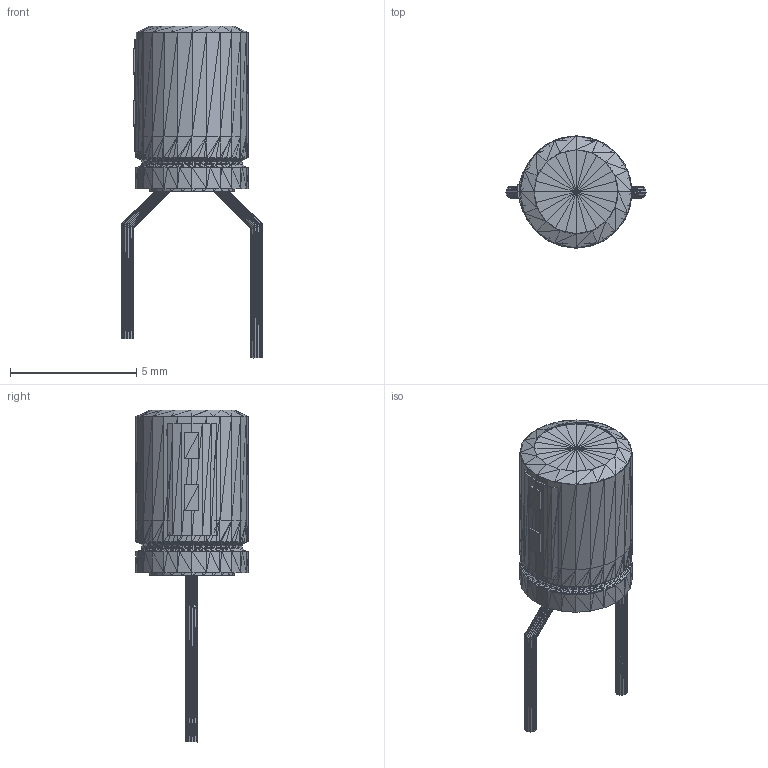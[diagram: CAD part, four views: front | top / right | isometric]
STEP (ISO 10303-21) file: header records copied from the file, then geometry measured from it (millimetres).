
FILE_DESCRIPTION(('HOOPS Exchange Step'),'2;1');
FILE_NAME('***.stp');
FILE_SCHEMA( ('AP242_MANAGED_MODEL_BASED_3D_ENGINEERING_MIM_LF {1 0 10303 442 1 1 4 }') );
Length unit declared in the file: inch
Products named in the file (13): CAPOLV175X250MIL_2; CAPOLV175X250MIL_3; CAPOLV175X250MIL_4; CAPOLV175X250MIL_5; CAPOLV175X250MIL_6; CAPOLV175X250MIL_7; CAPOLV175X250MIL_8; CAPOLV175X250MIL_9; CAPOLV175X250MIL_10; CAPOLV175X250MIL_11; CAPOLV175X250MIL_12; CAPOLV175X250MIL_13; CAPOLV175X250MIL
Assembly tree (12 placements, depth 2):
  CAPOLV175X250MIL
    CAPOLV175X250MIL_2
    CAPOLV175X250MIL_3
    CAPOLV175X250MIL_4
    CAPOLV175X250MIL_5
    CAPOLV175X250MIL_6
    CAPOLV175X250MIL_7
    CAPOLV175X250MIL_8
    CAPOLV175X250MIL_9
    CAPOLV175X250MIL_10
    CAPOLV175X250MIL_11
    CAPOLV175X250MIL_12
    CAPOLV175X250MIL_13
Bounding box: 5.56 x 4.45 x 13.16 mm (x, y, z)
Volume: 110 mm3; surface area: 263.7 mm2
Topology: 12 solids, 12 shells, 2196 faces, 3294 edges, 1120 vertices
Faces by surface type: plane 2196
Entity records: 43426 total; most frequent: DIRECTION 7738, CARTESIAN_POINT 6636, ORIENTED_EDGE 6588, VECTOR 3294, LINE 3294, EDGE_CURVE 3294, AXIS2_PLACEMENT_3D 2222, PLANE 2196
